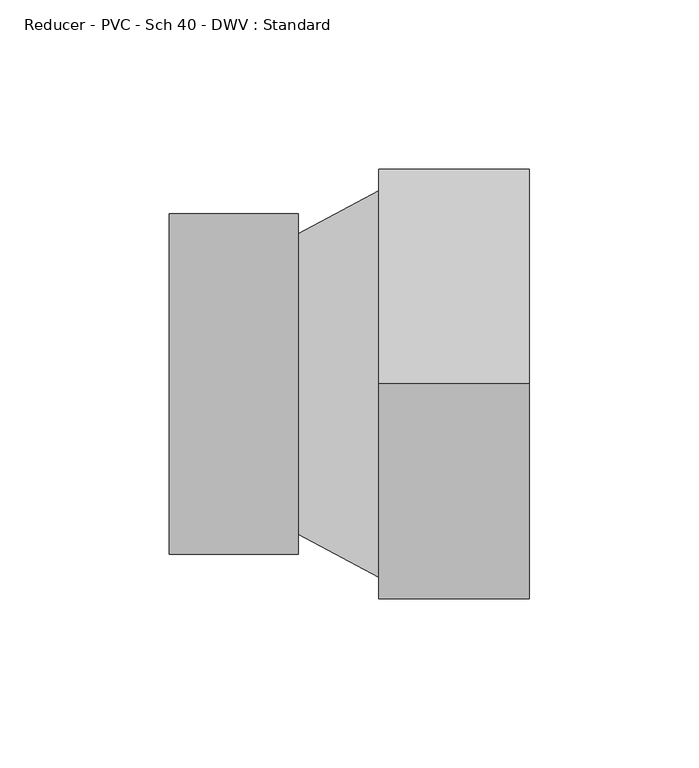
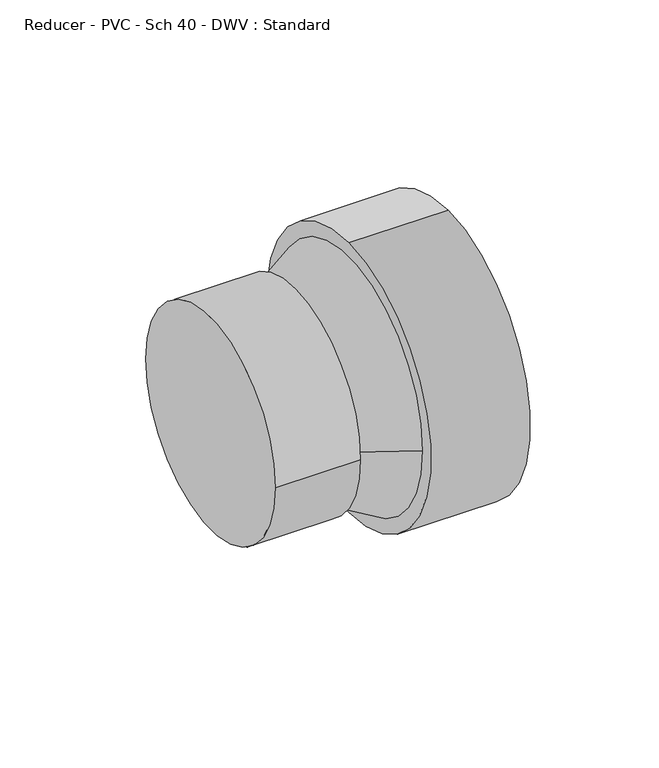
"""IFC4 building model written with IfcOpenShell, lengths in millimetres: pipe fitting geometry, Reducer - PVC - Sch 40 - DWV : Standard."""

from ifc_helpers import new_model, si_unit, frame, origin, place, context, project, spatial, polyline, circle_curve, source, transform, mapped, element, save
from ifc_brep_helpers import plane_surface, cylinder_surface, revolved_surface, advanced_brep


def reducer_pvc_sch_40_dwv_standard_523f1270(model_context):
    return source(origin(), model_context, "Body", "AdvancedBrep", [
        advanced_brep(
        [(0.0, 50.2666, 0.0), (0.0, -50.2666, 0.0), (38.1, 50.2666, 0.0), (38.1, -50.2666, 0.0), (38.1, -44.45, 0.0), (38.1, 44.45, 0.0), (61.9252, 57.15, 0.0), (61.9252, -57.15, 0.0), (61.9252, 0.0, 63.754), (61.9252, 0.0, -63.754), (106.3752, 0.0, 63.754), (106.3752, 0.0, -63.754)],
        [
            (0, 1, circle_curve(frame((0.0, 0.0, 0.0), z_axis=(-1.0, 0.0, 0.0), x_axis=(0.0, -1.0, 0.0)), 50.2666)),
            (1, 0, circle_curve(frame((0.0, 0.0, 0.0), z_axis=(-1.0, 0.0, 0.0), x_axis=(0.0, -1.0, 0.0)), 50.2666)),
            (2, 3, circle_curve(frame((38.1, 0.0, 0.0), z_axis=(1.0, 0.0, 0.0), x_axis=(0.0, -1.0, 0.0)), 50.2666)),
            (3, 2, circle_curve(frame((38.1, 0.0, 0.0), z_axis=(1.0, 0.0, 0.0), x_axis=(0.0, -1.0, 0.0)), 50.2666)),
            (4, 5, circle_curve(frame((38.1, 0.0, 0.0), z_axis=(-1.0, 0.0, 0.0), x_axis=(0.0, -1.0, 0.0)), 44.45)),
            (5, 4, circle_curve(frame((38.1, 0.0, 0.0), z_axis=(-1.0, 0.0, 0.0), x_axis=(0.0, 1.0, 0.0)), 44.45)),
            (1, 3),
            (2, 0),
            (5, 6),
            (6, 7, circle_curve(frame((61.9252, 0.0, 0.0), z_axis=(-1.0, 0.0, 0.0), x_axis=(0.0, 1.0, 0.0)), 57.15)),
            (7, 4),
            (7, 6, circle_curve(frame((61.9252, 0.0, 0.0), z_axis=(-1.0, 0.0, 0.0), x_axis=(0.0, -1.0, 0.0)), 57.15)),
            (8, 9, circle_curve(frame((61.9252, 0.0, 0.0), z_axis=(-1.0, 0.0, 0.0), x_axis=(0.0, 0.0, -1.0)), 63.754)),
            (9, 8, circle_curve(frame((61.9252, 0.0, 0.0), z_axis=(-1.0, 0.0, 0.0), x_axis=(0.0, 0.0, -1.0)), 63.754)),
            (10, 11, circle_curve(frame((106.3752, 0.0, 0.0), z_axis=(1.0, 0.0, 0.0), x_axis=(0.0, 0.0, -1.0)), 63.754)),
            (11, 10, circle_curve(frame((106.3752, 0.0, 0.0), z_axis=(1.0, 0.0, 0.0), x_axis=(0.0, 0.0, -1.0)), 63.754)),
            (9, 11),
            (10, 8),
        ],
        [
            plane_surface(frame((0.0, 0.0, 0.0), z_axis=(-1.0, 0.0, 0.0), x_axis=(0.0, 0.0, 1.0))),
            plane_surface(frame((38.1, 0.0, 0.0), z_axis=(1.0, 0.0, 0.0), x_axis=(0.0, 0.0, 1.0))),
            cylinder_surface(frame((0.0, 0.0, 0.0), z_axis=(-1.0, 0.0, 0.0), x_axis=(0.0, -1.0, 0.0)), 50.2666),
            revolved_surface(polyline([(38.10000000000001, 44.45, 0.0), (61.925200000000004, 57.15, 0.0)]), (-45.2882, 0.0, 0.0), (1.0, 0.0, 0.0)),
            revolved_surface(polyline([(38.10000000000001, -44.45, 0.0), (61.925200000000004, -57.15, 0.0)]), (-45.2882, 0.0, 0.0), (1.0, 0.0, 0.0)),
            plane_surface(frame((61.9252, 0.0, 0.0), z_axis=(-1.0, 0.0, 0.0), x_axis=(0.0, -1.0, 0.0))),
            plane_surface(frame((106.3752, 0.0, 0.0), z_axis=(1.0, 0.0, 0.0), x_axis=(0.0, -1.0, 0.0))),
            cylinder_surface(frame((61.9252, 0.0, 0.0), z_axis=(-1.0, 0.0, 0.0), x_axis=(0.0, 0.0, -1.0)), 63.754),
        ],
        [
            (0, [[1, 2]]),
            (1, [[3, 4], [5, 6]]),
            (2, [[7, -3, 8, -2]]),
            (2, [[-8, -4, -7, -1]]),
            (3, [[-6, 9, 10, 11]]),
            (4, [[12, -9, -5, -11]]),
            (5, [[13, 14], [-12, -10]]),
            (6, [[15, 16]]),
            (7, [[17, -15, 18, -14]]),
            (7, [[-18, -16, -17, -13]]),
        ],
    ),
    ])


if __name__ == "__main__":
    model = new_model("IFC4")
    model_context = context("Model", 3, world=origin())
    ifc_project = project(units=[si_unit("LENGTHUNIT", "METRE", prefix="MILLI")], contexts=[model_context])
    site = spatial("IfcSite", under=ifc_project)
    building = spatial("IfcBuilding", under=site)
    placement = place(None, origin())
    reducer_pvc_sch_40_dwv_standard_shape = reducer_pvc_sch_40_dwv_standard_523f1270(model_context)
    element("IfcPipeFitting", 1, ObjectType="Reducer - PVC - Sch 40 - DWV : Standard", at=placement, inside=building, context=model_context, shape_type="MappedRepresentation", body=[
        mapped(reducer_pvc_sch_40_dwv_standard_shape, transform((0.0, 0.0, 0.0), x_axis=(1.0, 0.0, 0.0), y_axis=(0.0, 1.0, 0.0), z_axis=(0.0, 0.0, 1.0))),
    ])
    save(model, "model.ifc")
